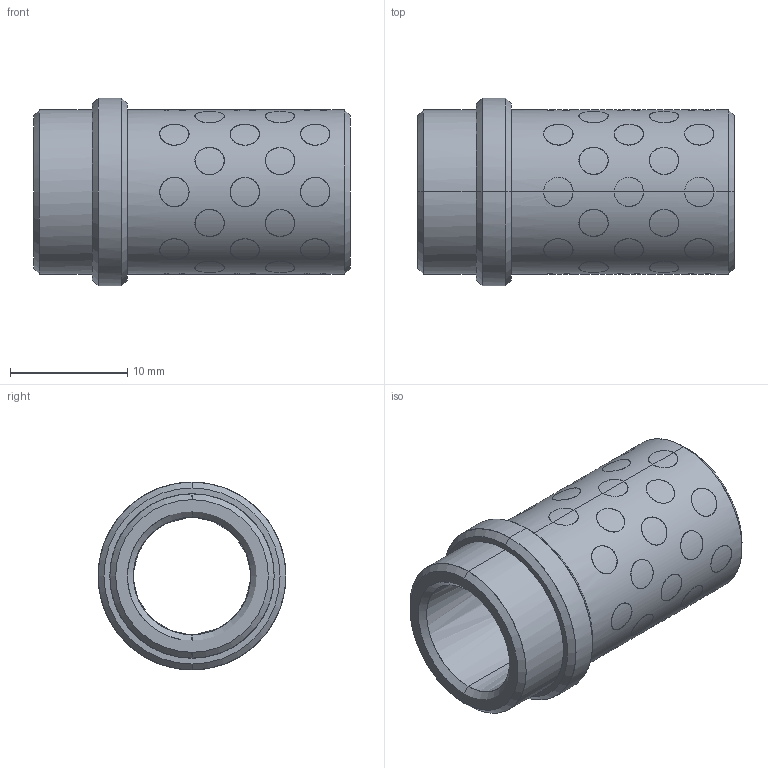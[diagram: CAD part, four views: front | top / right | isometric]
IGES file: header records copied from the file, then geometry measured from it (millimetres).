
Start section: START RECORD GO HERE.
Global section: file name: G31210022.igs; native system: DASSAULT SYSTEMES CATIA V5 R20 - www.3ds.com; preprocessor: CATIA Version 5 Release 20 ; author: r.borello; organization: CFTORINO; date: 20190624.122202; units: millimetre
Bounding box: 27 x 16 x 16 mm (x, y, z)
Surface area: 3487.8 mm2 (no closed solid volume)
Topology: 0 solids, 0 shells, 276 faces, 1200 edges, 1200 vertices
Faces by surface type: revolution 272, plane 4
